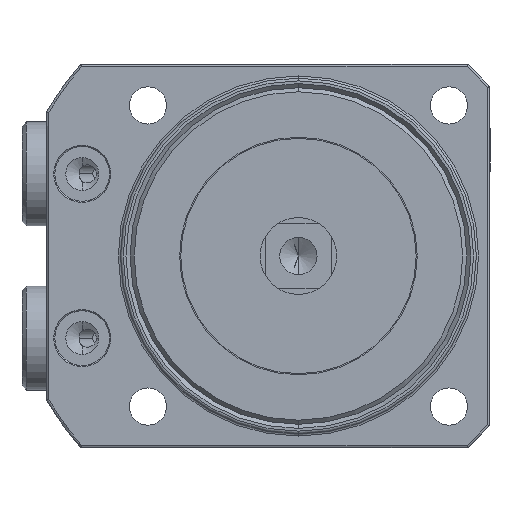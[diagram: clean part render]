
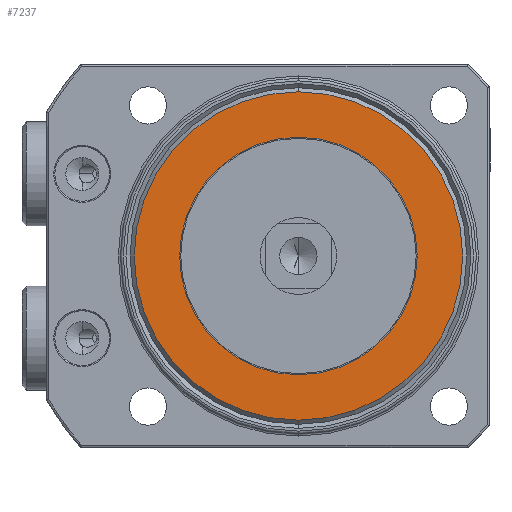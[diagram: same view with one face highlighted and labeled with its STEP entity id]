
A CAD part, front view. The second image highlights one B-rep face of the part: STEP entity #7237.
In plain terms, the highlighted planar face has unit normal (0, -1, 0) as drawn and (1, 0, 0) by its records, which use the part's own axes.
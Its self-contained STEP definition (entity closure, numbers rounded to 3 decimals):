
#173 = CARTESIAN_POINT ( 'NONE',  ( 58., 0., -30. ) ) ;
#502 = PLANE ( 'NONE',  #8109 ) ;
#565 = ORIENTED_EDGE ( 'NONE', *, *, #4859, .F. ) ;
#731 = AXIS2_PLACEMENT_3D ( 'NONE', #4637, #864, #5272 ) ;
#864 = DIRECTION ( 'NONE',  ( -1., 0., 0. ) ) ;
#887 = EDGE_CURVE ( 'NONE', #1918, #7665, #7445, .T. ) ;
#1280 = DIRECTION ( 'NONE',  ( -1., 0., 0. ) ) ;
#1297 = DIRECTION ( 'NONE',  ( -1., 0., 0. ) ) ;
#1750 = CIRCLE ( 'NONE', #731, 30. ) ;
#1819 = CIRCLE ( 'NONE', #5230, 21.7 ) ;
#1918 = VERTEX_POINT ( 'NONE', #173 ) ;
#2426 = CARTESIAN_POINT ( 'NONE',  ( 58., 0., 0. ) ) ;
#2428 = EDGE_LOOP ( 'NONE', ( #7378, #2907 ) ) ;
#2690 = AXIS2_PLACEMENT_3D ( 'NONE', #5055, #1280, #5705 ) ;
#2907 = ORIENTED_EDGE ( 'NONE', *, *, #4111, .T. ) ;
#2922 = FACE_OUTER_BOUND ( 'NONE', #4399, .T. ) ;
#3063 = DIRECTION ( 'NONE',  ( 0., 0., 1. ) ) ;
#3562 = VERTEX_POINT ( 'NONE', #5226 ) ;
#3665 = DIRECTION ( 'NONE',  ( 0., 0., -1. ) ) ;
#4111 = EDGE_CURVE ( 'NONE', #5681, #3562, #4350, .T. ) ;
#4350 = CIRCLE ( 'NONE', #4581, 21.7 ) ;
#4399 = EDGE_LOOP ( 'NONE', ( #565, #8032 ) ) ;
#4581 = AXIS2_PLACEMENT_3D ( 'NONE', #5084, #1297, #5724 ) ;
#4637 = CARTESIAN_POINT ( 'NONE',  ( 58., 0., 0. ) ) ;
#4859 = EDGE_CURVE ( 'NONE', #7665, #1918, #1750, .T. ) ;
#5055 = CARTESIAN_POINT ( 'NONE',  ( 58., 0., 0. ) ) ;
#5084 = CARTESIAN_POINT ( 'NONE',  ( 58., 0., 0. ) ) ;
#5226 = CARTESIAN_POINT ( 'NONE',  ( 58., 0., 21.7 ) ) ;
#5230 = AXIS2_PLACEMENT_3D ( 'NONE', #2426, #6831, #3063 ) ;
#5272 = DIRECTION ( 'NONE',  ( 0., 0., 1. ) ) ;
#5589 = CARTESIAN_POINT ( 'NONE',  ( 58., 0., -21.7 ) ) ;
#5681 = VERTEX_POINT ( 'NONE', #5589 ) ;
#5705 = DIRECTION ( 'NONE',  ( 0., 0., 1. ) ) ;
#5724 = DIRECTION ( 'NONE',  ( 0., 0., 1. ) ) ;
#6001 = CARTESIAN_POINT ( 'NONE',  ( 58., 0., 30. ) ) ;
#6265 = FACE_BOUND ( 'NONE', #2428, .T. ) ;
#6831 = DIRECTION ( 'NONE',  ( -1., 0., 0. ) ) ;
#7237 = ADVANCED_FACE ( 'NONE', ( #6265, #2922 ), #502, .T. ) ;
#7378 = ORIENTED_EDGE ( 'NONE', *, *, #7775, .T. ) ;
#7445 = CIRCLE ( 'NONE', #2690, 30. ) ;
#7455 = DIRECTION ( 'NONE',  ( 1., 0., 0. ) ) ;
#7665 = VERTEX_POINT ( 'NONE', #6001 ) ;
#7775 = EDGE_CURVE ( 'NONE', #3562, #5681, #1819, .T. ) ;
#8032 = ORIENTED_EDGE ( 'NONE', *, *, #887, .F. ) ;
#8063 = CARTESIAN_POINT ( 'NONE',  ( 58., 21.7, 0. ) ) ;
#8109 = AXIS2_PLACEMENT_3D ( 'NONE', #8063, #7455, #3665 ) ;
